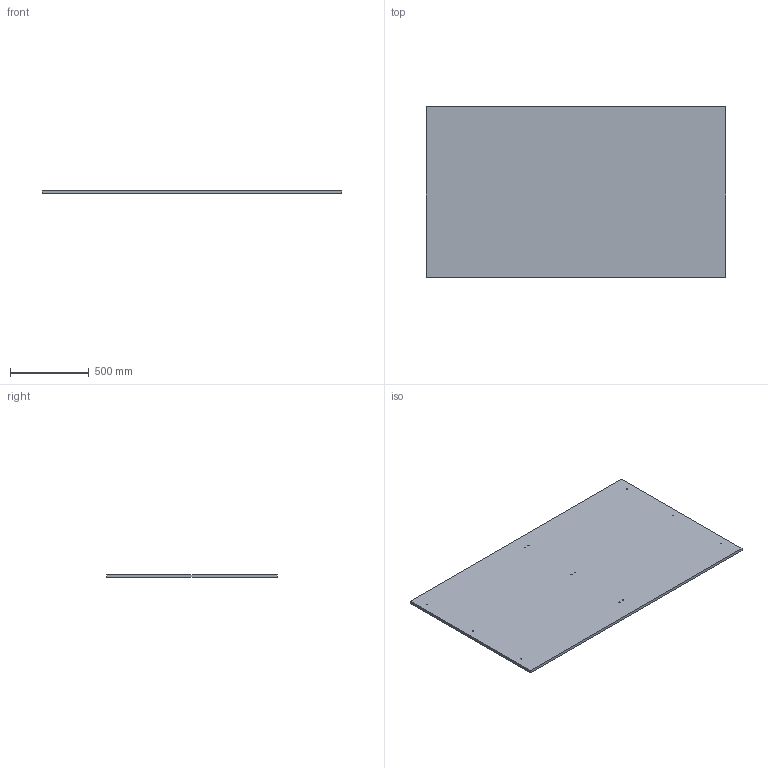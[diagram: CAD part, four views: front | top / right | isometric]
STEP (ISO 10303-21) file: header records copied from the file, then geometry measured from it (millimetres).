
FILE_DESCRIPTION (( 'STEP AP214' ), '1' );
FILE_NAME ('PANTI0121.STEP', '2025-01-23T12:39:43', ( '' ), ( '' ), 'SwSTEP 2.0', 'SolidWorks 2022', '' );
FILE_SCHEMA (( 'AUTOMOTIVE_DESIGN' ));
Length unit declared in the file: millimetre
Products named in the file (1): PANTI0121
Bounding box: 1896 x 1078 x 18 mm (x, y, z)
Volume: 36779749.3 mm3; surface area: 4199173.5 mm2
Topology: 1 solids, 1 shells, 78 faces, 180 edges, 92 vertices
Faces by surface type: cone 48, cylinder 24, plane 6
Entity records: 2038 total; most frequent: DIRECTION 386, CARTESIAN_POINT 327, ORIENTED_EDGE 312, EDGE_CURVE 156, AXIS2_PLACEMENT_3D 151, VERTEX_POINT 92, EDGE_LOOP 90, LINE 84
